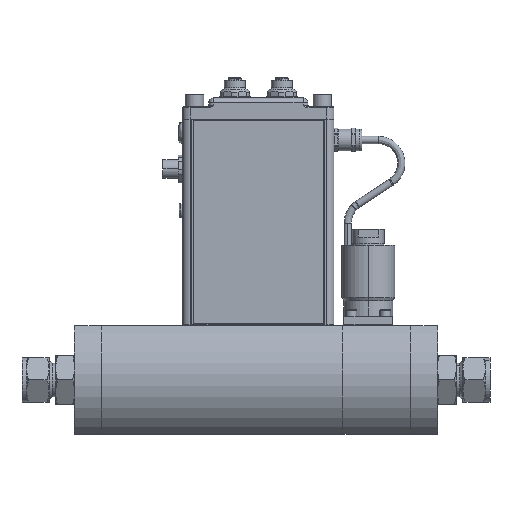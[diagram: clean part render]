
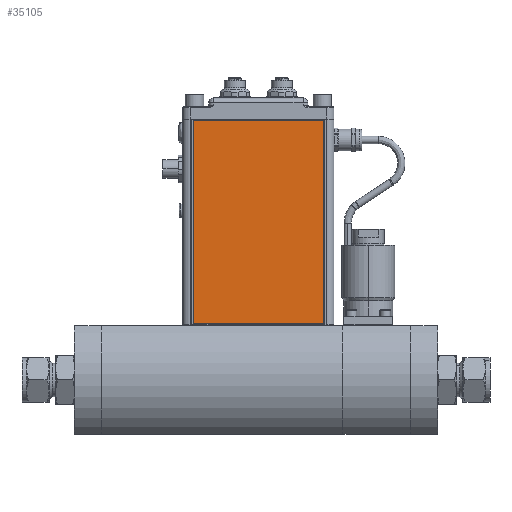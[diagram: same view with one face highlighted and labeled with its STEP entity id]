
A CAD part, top view. The second image highlights one B-rep face of the part: STEP entity #35105.
In plain terms, the highlighted planar face has unit normal (0, 0, 1).
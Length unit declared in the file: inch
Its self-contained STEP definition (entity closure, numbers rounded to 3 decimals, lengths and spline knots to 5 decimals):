
#2875 = DIRECTION ( 'NONE',  ( 0., 1., 0. ) ) ;
#3236 = CARTESIAN_POINT ( 'NONE',  ( 1.72494, 2.83272, 0.958 ) ) ;
#3800 = VECTOR ( 'NONE', #2875, 39.37008 ) ;
#3996 = LINE ( 'NONE', #43163, #4052 ) ;
#4052 = VECTOR ( 'NONE', #8449, 39.37008 ) ;
#4939 = CARTESIAN_POINT ( 'NONE',  ( 0.05994, 2.83272, 0.958 ) ) ;
#6207 = VERTEX_POINT ( 'NONE', #28018 ) ;
#8449 = DIRECTION ( 'NONE',  ( -1., 0., 0. ) ) ;
#10417 = VERTEX_POINT ( 'NONE', #40376 ) ;
#10454 = AXIS2_PLACEMENT_3D ( 'NONE', #40189, #43006, #14611 ) ;
#14611 = DIRECTION ( 'NONE',  ( 0., -1., 0. ) ) ;
#14747 = EDGE_CURVE ( 'NONE', #29724, #38805, #24188, .T. ) ;
#15294 = PLANE ( 'NONE',  #10454 ) ;
#19148 = VECTOR ( 'NONE', #31884, 39.37008 ) ;
#19216 = EDGE_CURVE ( 'NONE', #38805, #10417, #3996, .T. ) ;
#20632 = LINE ( 'NONE', #24141, #19148 ) ;
#20959 = CARTESIAN_POINT ( 'NONE',  ( 1.72494, 8.00272, 0.958 ) ) ;
#22341 = FACE_OUTER_BOUND ( 'NONE', #45703, .T. ) ;
#23199 = LINE ( 'NONE', #4939, #33137 ) ;
#24141 = CARTESIAN_POINT ( 'NONE',  ( -1.60506, 2.83272, 0.958 ) ) ;
#24188 = LINE ( 'NONE', #42042, #3800 ) ;
#25601 = ORIENTED_EDGE ( 'NONE', *, *, #14747, .T. ) ;
#28018 = CARTESIAN_POINT ( 'NONE',  ( -1.60506, 2.83272, 0.958 ) ) ;
#29634 = EDGE_CURVE ( 'NONE', #6207, #29724, #23199, .T. ) ;
#29724 = VERTEX_POINT ( 'NONE', #3236 ) ;
#31029 = ORIENTED_EDGE ( 'NONE', *, *, #29634, .T. ) ;
#31884 = DIRECTION ( 'NONE',  ( 0., -1., 0. ) ) ;
#32996 = ORIENTED_EDGE ( 'NONE', *, *, #19216, .T. ) ;
#33137 = VECTOR ( 'NONE', #37511, 39.37008 ) ;
#35105 = ADVANCED_FACE ( 'NONE', ( #22341 ), #15294, .T. ) ;
#36544 = ORIENTED_EDGE ( 'NONE', *, *, #45830, .T. ) ;
#37511 = DIRECTION ( 'NONE',  ( 1., 0., 0. ) ) ;
#38805 = VERTEX_POINT ( 'NONE', #20959 ) ;
#40189 = CARTESIAN_POINT ( 'NONE',  ( 0.05994, 2.83272, 0.958 ) ) ;
#40376 = CARTESIAN_POINT ( 'NONE',  ( -1.60506, 8.00272, 0.958 ) ) ;
#42042 = CARTESIAN_POINT ( 'NONE',  ( 1.72494, 2.83272, 0.958 ) ) ;
#43006 = DIRECTION ( 'NONE',  ( 0., 0., 1. ) ) ;
#43163 = CARTESIAN_POINT ( 'NONE',  ( 0.05994, 8.00272, 0.958 ) ) ;
#45703 = EDGE_LOOP ( 'NONE', ( #36544, #31029, #25601, #32996 ) ) ;
#45830 = EDGE_CURVE ( 'NONE', #10417, #6207, #20632, .T. ) ;
